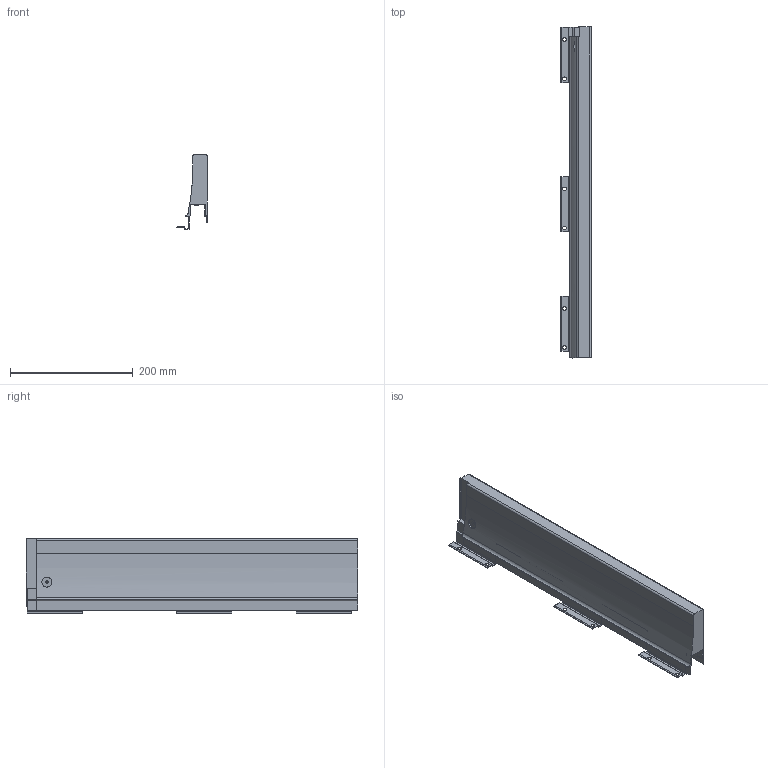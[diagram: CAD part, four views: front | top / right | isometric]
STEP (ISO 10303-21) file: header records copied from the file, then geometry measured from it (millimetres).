
FILE_DESCRIPTION (( 'STEP AP214' ), '1' );
FILE_NAME ('_XP Agantis Dekorseite H127 NL550 RE.step', '2010-07-08T06:22:08', ( 'grass' ), ( '' ), 'SwSTEP 2.0', 'SolidWorks 2010', '' );
FILE_SCHEMA (( 'AUTOMOTIVE_DESIGN' ));
Length unit declared in the file: millimetre
Products named in the file (1): _XP Agantis Dekorseite H127 NL550 RE
Bounding box: 50.01 x 541.5 x 121.5 mm (x, y, z)
Volume: 1179133.4 mm3; surface area: 215193.7 mm2
Topology: 1 solids, 1 shells, 147 faces, 427 edges, 279 vertices
Faces by surface type: plane 118, cylinder 29
Entity records: 4935 total; most frequent: CARTESIAN_POINT 941, ORIENTED_EDGE 854, DIRECTION 778, EDGE_CURVE 427, VECTOR 368, LINE 368, VERTEX_POINT 279, AXIS2_PLACEMENT_3D 205
